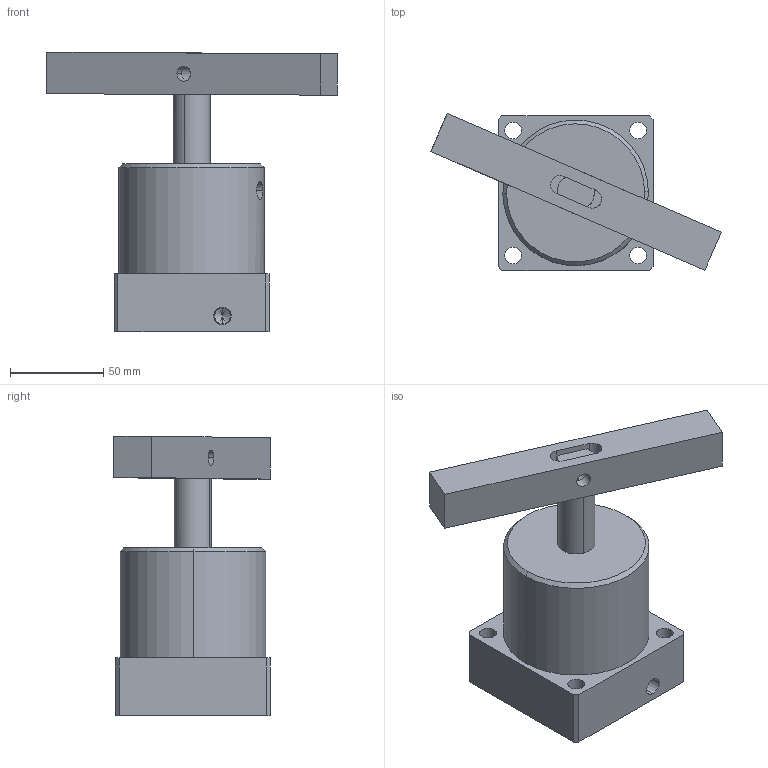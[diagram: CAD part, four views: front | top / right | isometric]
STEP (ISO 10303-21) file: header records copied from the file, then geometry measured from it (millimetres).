
FILE_DESCRIPTION (( 'STEP AP203' ), '1' );
FILE_NAME ('Double clamp ø63.STEP', '2010-02-18T13:59:10', ( 'Christophe Gaillard' ), ( 'SGA' ), 'SwSTEP 2.0', 'SolidWorks 2007', '' );
FILE_SCHEMA (( 'CONFIG_CONTROL_DESIGN' ));
Length unit declared in the file: millimetre
Products named in the file (5): Double clamp ø63; Base  ø63_Défaut; Bride ø63_Défaut; Tige ø63_Défaut; Corps ø63_Défaut
Assembly tree (4 placements, depth 2):
  Double clamp ø63
    Bride ø63_Défaut
    Base  ø63_Défaut
    Tige ø63_Défaut
    Corps ø63_Défaut
Bounding box: 155.72 x 84.05 x 149.78 mm (x, y, z)
Volume: 572406.1 mm3; surface area: 81811 mm2
Topology: 4 solids, 4 shells, 66 faces, 162 edges, 104 vertices
Faces by surface type: cylinder 28, plane 28, cone 10
Entity records: 2561 total; most frequent: CARTESIAN_POINT 399, DIRECTION 370, ORIENTED_EDGE 316, EDGE_CURVE 158, AXIS2_PLACEMENT_3D 141, VERTEX_POINT 104, EDGE_LOOP 90, VECTOR 88
